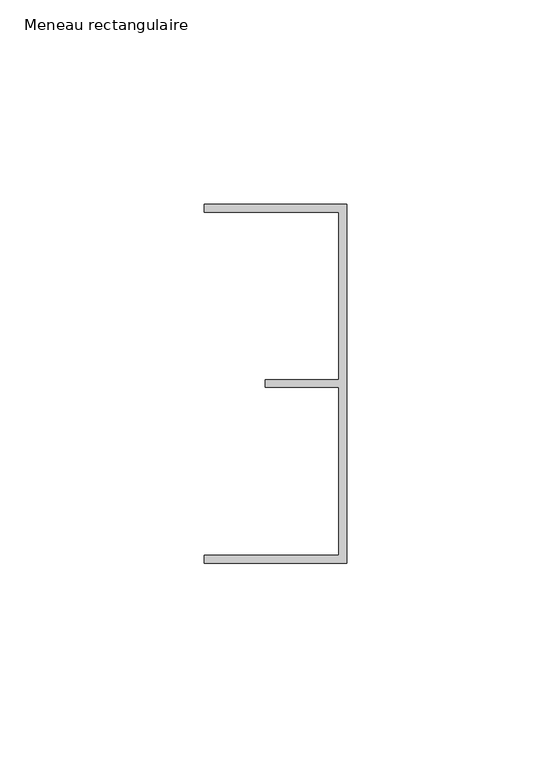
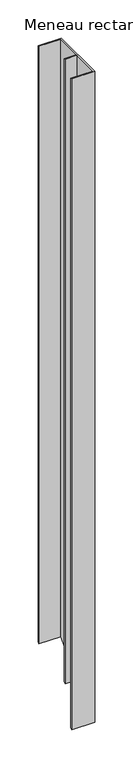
"""IFC4 building model written with IfcOpenShell, lengths in millimetres: member geometry, Meneau rectangulaire : LISSERIE_PLAFOND_COIFFANTE 94-KLP00-P80-SD20ALU."""

import ifcopenshell
import ifcopenshell.guid

model = None  # the IFC model being written
_history = None  # IfcOwnerHistory: only IFC2X3 demands one
_inside = {}  # id of a spatial element -> (the spatial element, [elements in it])
_under = {}  # id of a project, library or spatial element -> (it, [spatial elements below it])
_declared = {}  # id of a project -> (the project, [libraries it declares])
_typed = {}  # id of a type object -> (the type object, [elements of that type])
_made_of = {}  # id of a material, layer set ... -> (it, [elements and type objects made of it])


def new_model(schema):
    """Start an empty IFC model of exactly this schema.

    Asked for "IFC4X3", IfcOpenShell would pick the latest addendum, in which some entities
    have other attributes; the version numbers below select the first issue.
    IFC2X3 requires an IfcOwnerHistory on every rooted entity: one is made here for all.
    """
    global model, _history
    if schema == "IFC4X3":
        model = ifcopenshell.file(schema_version=(4, 3, 0, 0))
    else:
        model = ifcopenshell.file(schema=schema)
    _inside.clear()
    _under.clear()
    _declared.clear()
    _typed.clear()
    _made_of.clear()
    _history = None
    if model.schema == "IFC2X3":
        org = make("IfcOrganization", Name="unknown")
        user = make(
            "IfcPersonAndOrganization",
            ThePerson=make("IfcPerson", FamilyName="unknown"),
            TheOrganization=org,
        )
        app = make(
            "IfcApplication",
            ApplicationDeveloper=org,
            Version="unknown",
            ApplicationFullName="unknown",
            ApplicationIdentifier="unknown",
        )
        _history = make(
            "IfcOwnerHistory",
            OwningUser=user,
            OwningApplication=app,
            ChangeAction="ADDED",
            CreationDate=0,
        )
    return model


def make(cls, **values):
    """One entity of the class cls with the attributes given. An attribute that is None is left unset."""
    return model.create_entity(
        cls, **{name: value for name, value in values.items() if value is not None}
    )


def rooted(cls, **values):
    """An entity with a GlobalId (a new one), such as an element, a storey or a relation."""
    return make(cls, GlobalId=ifcopenshell.guid.new(), OwnerHistory=_history, **values)


def si_unit(unit_type, name, prefix=None):
    """IfcSIUnit, for example si_unit("LENGTHUNIT", "METRE", prefix="MILLI")."""
    return make("IfcSIUnit", UnitType=unit_type, Prefix=prefix, Name=name)


def assignment(units):
    """IfcUnitAssignment: the units of a project."""
    return None if units is None else make("IfcUnitAssignment", Units=units)


def point(xyz):
    """IfcCartesianPoint."""
    return None if xyz is None else make("IfcCartesianPoint", Coordinates=xyz)


def direction(xyz):
    """IfcDirection."""
    return None if xyz is None else make("IfcDirection", DirectionRatios=xyz)


def frame(location, z_axis=None, x_axis=None):
    """IfcAxis2Placement3D, a coordinate frame: its origin and axes. An axis left out is left unset."""
    return make(
        "IfcAxis2Placement3D",
        Location=point(location),
        Axis=direction(z_axis),
        RefDirection=direction(x_axis),
    )


def origin():
    """The frame at (0, 0, 0) with its axes left unset."""
    return frame((0.0, 0.0, 0.0))


def place(relative_to, where):
    """IfcLocalPlacement: puts the frame where relative to a parent placement (None: the world)."""
    return make(
        "IfcLocalPlacement", PlacementRelTo=relative_to, RelativePlacement=where
    )


def context(
    kind, dimensions, precision=None, world=None, true_north=None, identifier=None
):
    """IfcGeometricRepresentationContext, for example the 3D "Model" context."""
    return make(
        "IfcGeometricRepresentationContext",
        ContextIdentifier=identifier,
        ContextType=kind,
        CoordinateSpaceDimension=dimensions,
        Precision=precision,
        WorldCoordinateSystem=world,
        TrueNorth=true_north,
    )


def project(units=None, contexts=None):
    """IfcProject with its units and contexts."""
    return rooted(
        "IfcProject",
        Name="project",
        RepresentationContexts=contexts,
        UnitsInContext=assignment(units),
    )


def spatial(cls, under=None, at=None, **own):
    """A site, building, storey or space (cls), placed at a placement, below another one or the project."""
    s = rooted(cls, ObjectPlacement=at, **own)
    if under is not None:
        _under.setdefault(under.id(), (under, []))[1].append(s)
    return s


def faces_of(points, faces, orient=None, outer=None):
    """IfcFace entities. A face is a list of loops; a loop is a list of indices into points, from 0.

    orient and outer hold one flag for each loop. By default every Orientation is true, the
    first loop of a face is its IfcFaceOuterBound and the others are IfcFaceBound.
    """
    made = []
    for i, loops in enumerate(faces):
        bounds = []
        for j, loop in enumerate(loops):
            is_outer = j == 0 if outer is None else outer[i][j]
            bounds.append(
                make(
                    "IfcFaceOuterBound" if is_outer else "IfcFaceBound",
                    Bound=make("IfcPolyLoop", Polygon=[points[k] for k in loop]),
                    Orientation=True if orient is None else orient[i][j],
                )
            )
        made.append(make("IfcFace", Bounds=bounds))
    return made


def faceted_brep(points, faces, orient=None, outer=None, voids=None):
    """IfcFacetedBrep: a solid bounded by flat faces; with voids (closed shells), ...WithVoids."""
    shared = [point(p) for p in points]
    hull = make("IfcClosedShell", CfsFaces=faces_of(shared, faces, orient, outer))
    if voids is None:
        return make("IfcFacetedBrep", Outer=hull)
    return make(
        "IfcFacetedBrepWithVoids",
        Outer=hull,
        Voids=[
            make(cls, CfsFaces=faces_of(shared, fs, o, b)) for cls, fs, o, b in voids
        ],
    )


def shape(context_of_items, identifier, shape_type, items):
    """IfcShapeRepresentation: the items that make up one representation, for example the "Body"."""
    return make(
        "IfcShapeRepresentation",
        ContextOfItems=context_of_items,
        RepresentationIdentifier=identifier,
        RepresentationType=shape_type,
        Items=items,
    )


def source(mapping_origin, context_of_items, identifier, shape_type, items):
    """IfcRepresentationMap: a shape defined once, which mapped items show again and again."""
    return make(
        "IfcRepresentationMap",
        MappingOrigin=mapping_origin,
        MappedRepresentation=shape(context_of_items, identifier, shape_type, items),
    )


def transform(
    local_origin,
    x_axis=None,
    y_axis=None,
    z_axis=None,
    scale=None,
    scale2=None,
    scale3=None,
    uniform=True,
):
    """IfcCartesianTransformationOperator3D, or its non-uniform kind. x_axis, y_axis, z_axis: its Axis1, 2, 3."""
    if uniform:
        return make(
            "IfcCartesianTransformationOperator3D",
            Axis1=direction(x_axis),
            Axis2=direction(y_axis),
            LocalOrigin=point(local_origin),
            Scale=scale,
            Axis3=direction(z_axis),
        )
    return make(
        "IfcCartesianTransformationOperator3DnonUniform",
        Axis1=direction(x_axis),
        Axis2=direction(y_axis),
        LocalOrigin=point(local_origin),
        Scale=scale,
        Axis3=direction(z_axis),
        Scale2=scale2,
        Scale3=scale3,
    )


def mapped(mapping_source, mapping_target):
    """IfcMappedItem: shows the shape of a source again, moved by a transform."""
    return make(
        "IfcMappedItem", MappingSource=mapping_source, MappingTarget=mapping_target
    )


def made_of(thing, what):
    """Note that an element or type object is made of a material, layer set ...; save() writes the relation."""
    if what is not None:
        _made_of.setdefault(what.id(), (what, []))[1].append(thing)
    return thing


def element(
    cls,
    number,
    at=None,
    inside=None,
    cuts=None,
    type_object=None,
    material=None,
    context=None,
    identifier="Body",
    shape_type=None,
    held_by="IfcProductDefinitionShape",
    body=None,
    shapes=None,
    **own,
):
    """One element of the class cls, such as IfcWall. Its Tag is "e" and its number.

    at: its placement. inside: the storey or other place that contains it. cuts: it is an
    opening in that element (IfcRelVoidsElement). A single representation is given by context,
    identifier, shape_type and body (its items); several are given by shapes. held_by: the class
    of the entity that holds the representations. save() writes the other relations.
    """
    e = rooted(cls, Tag="e%d" % number, ObjectPlacement=at, **own)
    if body is not None:
        shapes = [shape(context, identifier, shape_type, body)]
    if shapes is not None:
        e.Representation = make(held_by, Representations=shapes)
    if inside is not None:
        _inside.setdefault(inside.id(), (inside, []))[1].append(e)
    if cuts is not None:
        rooted(
            "IfcRelVoidsElement", RelatingBuildingElement=cuts, RelatedOpeningElement=e
        )
    if type_object is not None:
        _typed.setdefault(type_object.id(), (type_object, []))[1].append(e)
    return made_of(e, material)


def aggregate(whole, parts):
    """IfcRelAggregates: a whole, such as a stair, and the parts it consists of."""
    return rooted("IfcRelAggregates", RelatingObject=whole, RelatedObjects=parts)


def save(model, path):
    """Write the relations noted so far, then the file.

    IfcRelAggregates (storeys below a building ...), IfcRelContainedInSpatialStructure (elements
    in a storey), IfcRelDefinesByType, IfcRelAssociatesMaterial and IfcRelDeclares: one each for
    every whole, place, type object, material and project.
    """
    for whole, parts in _under.values():
        aggregate(whole, parts)
    for where, things in _inside.values():
        rooted(
            "IfcRelContainedInSpatialStructure",
            RelatedElements=things,
            RelatingStructure=where,
        )
    for kind, things in _typed.values():
        rooted("IfcRelDefinesByType", RelatedObjects=things, RelatingType=kind)
    for what, things in _made_of.values():
        rooted("IfcRelAssociatesMaterial", RelatedObjects=things, RelatingMaterial=what)
    for by, libraries in _declared.values():
        rooted("IfcRelDeclares", RelatingContext=by, RelatedDefinitions=libraries)
    model.write(path)


def meneau_rectangulaire_af89d6a5(model_context):
    return source(origin(), model_context, "Body", "Brep", [
        faceted_brep([(0.0, 44.0, 0.0), (-35.0, 44.0, 0.0), (-35.0, 42.0, 0.0), (-2.0, 42.0, 0.0), (-2.0, 0.9316478, 0.0), (-20.0, 0.9316478, 0.0), (-20.0, -0.9316478, 0.0), (-2.0, -0.9316478, 0.0), (-2.0, -42.0, 0.0), (-35.0, -42.0, 0.0), (-35.0, -44.0, 0.0), (0.0, -44.0, 0.0), (0.0, 44.0, -956.0), (-35.0, 44.0, -956.0), (-35.0, 42.0, -958.0), (-2.0, 42.0, -958.0), (-2.0, 0.9316478, -999.0683522), (-20.0, 0.9316478, -999.0683522), (-20.0, -0.9316478, -1000.9316478), (-2.0, -0.9316478, -1000.9316478), (-2.0, -42.0, -1042.0), (-35.0, -42.0, -1042.0), (-35.0, -44.0, -1044.0), (0.0, -44.0, -1044.0)], [[[0, 1, 2, 3, 4, 5, 6, 7, 8, 9, 10, 11]], [[1, 0, 12, 13]], [[2, 1, 13, 14]], [[3, 2, 14, 15]], [[4, 3, 15, 16]], [[5, 4, 16, 17]], [[6, 5, 17, 18]], [[7, 6, 18, 19]], [[8, 7, 19, 20]], [[9, 8, 20, 21]], [[10, 9, 21, 22]], [[11, 10, 22, 23]], [[0, 11, 23, 12]], [[12, 23, 22, 21, 20, 19, 18, 17, 16, 15, 14, 13]]]),
    ])


if __name__ == "__main__":
    model = new_model("IFC4")
    model_context = context("Model", 3, world=origin())
    ifc_project = project(units=[si_unit("LENGTHUNIT", "METRE", prefix="MILLI")], contexts=[model_context])
    site = spatial("IfcSite", under=ifc_project)
    building = spatial("IfcBuilding", under=site)
    placement = place(None, origin())
    meneau_rectangulaire_shape = meneau_rectangulaire_af89d6a5(model_context)
    element("IfcMember", 1, ObjectType="Meneau rectangulaire : LISSERIE_PLAFOND_COIFFANTE 94-KLP00-P80-SD20ALU", at=placement, inside=building, context=model_context, shape_type="MappedRepresentation", body=[
        mapped(meneau_rectangulaire_shape, transform((0.0, 0.0, 0.0), x_axis=(1.0, 0.0, 0.0), y_axis=(0.0, 1.0, 0.0), z_axis=(0.0, 0.0, 1.0))),
    ])
    save(model, "model.ifc")
